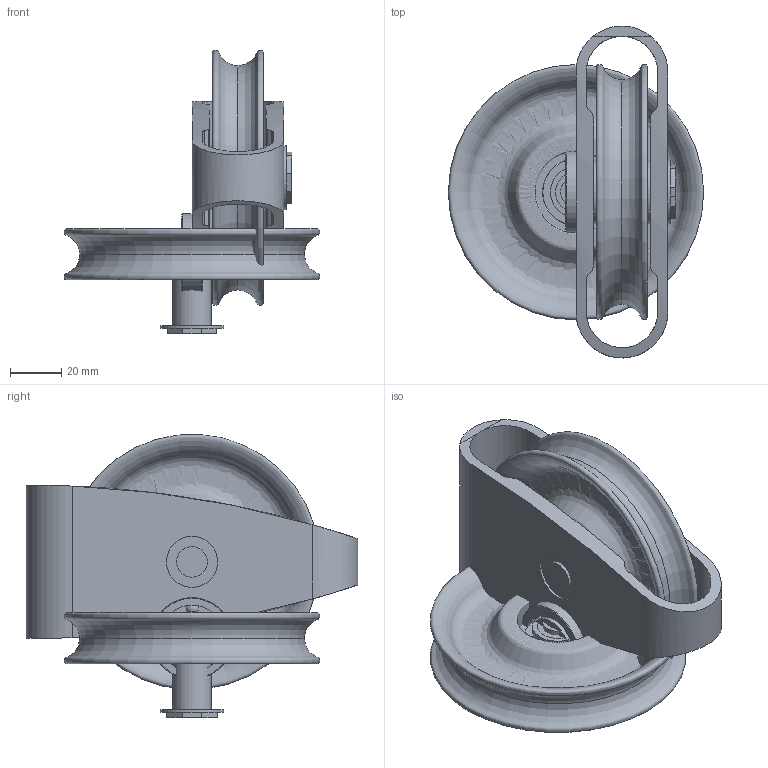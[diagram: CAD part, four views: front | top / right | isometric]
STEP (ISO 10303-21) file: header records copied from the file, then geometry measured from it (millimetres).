
FILE_DESCRIPTION( ( 'STEP AP203' ), '1' );
FILE_NAME( 'Z:/J/Jp3/Poulies 2002/POULIES 3D/STEP/Poulie carbone Ø100.step', ' ', ( ' ' ), ( ' ' ), 'XStep 1.0', ' ', ' ' );
FILE_SCHEMA( ( 'CONFIG_CONTROL_DESIGN' ) );
Length unit declared in the file: millimetre
Products named in the file (34): 1; 2; 3; 4; 5; 6; 7; 8; 9; 10; 11; Assem1; 12; 13; 14; 15; 16; 17; 18; 19; 20; 21; 22; 23; 24; 25; 26; 27; 28; 29; 30; 31; 32; 33
Bounding box: 100 x 129.98 x 110.91 mm (x, y, z)
Volume: 214700.7 mm3; surface area: 106231.4 mm2
Topology: 45 solids, 45 shells, 200 faces, 426 edges, 288 vertices
Faces by surface type: plane 92, cylinder 62, torus 24, sphere 16, revolution 4, cone 2
Full cylindrical faces by diameter (mm): 10.25 x4, 12 x4, 15 x12, 20 x6, 20.95 x8, 25 x6, 26 x2, 26.05 x8, 26.2 x2, 32 x4
Entity records: 4847 total; most frequent: CARTESIAN_POINT 945, DIRECTION 585, ORIENTED_EDGE 360, AXIS2_PLACEMENT_3D 259, EDGE_CURVE 180, EDGE_LOOP 173, CC_DESIGN_PERSON_AND_ORGANIZATION_ASSIGNMENT 170, FACE_OUTER_BOUND 150
